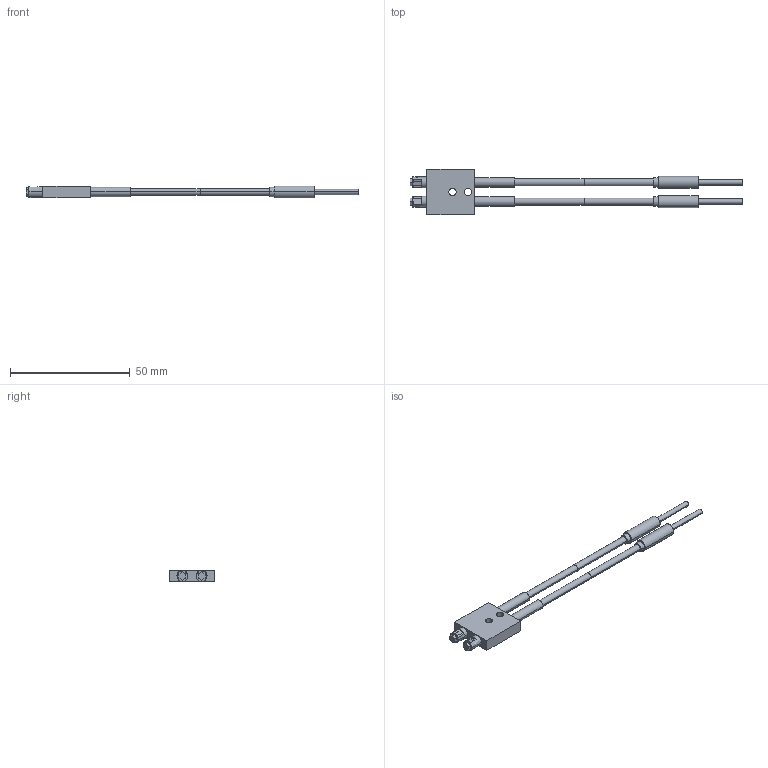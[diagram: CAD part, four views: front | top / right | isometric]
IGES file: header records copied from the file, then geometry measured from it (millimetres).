
Start section: SolidWorks IGES FILE using analytic representation for surfaces
Global section: file name: C:\Documents and Settings\yk0651\デスクトップ\3D_catalog_050904\0_IGES\FD-H30-L32.IGS; native system: SolidWorks 2004 by SolidWorks Corporation; preprocessor: Version 5.3; author: yk0651; date: 050904.184330; units: millimetre
Bounding box: 138.7 x 19 x 5 mm (x, y, z)
Volume: 4056.5 mm3; surface area: 3795.5 mm2
Topology: 3 solids, 3 shells, 82 faces, 180 edges, 120 vertices
Faces by surface type: plane 50, revolution 32
